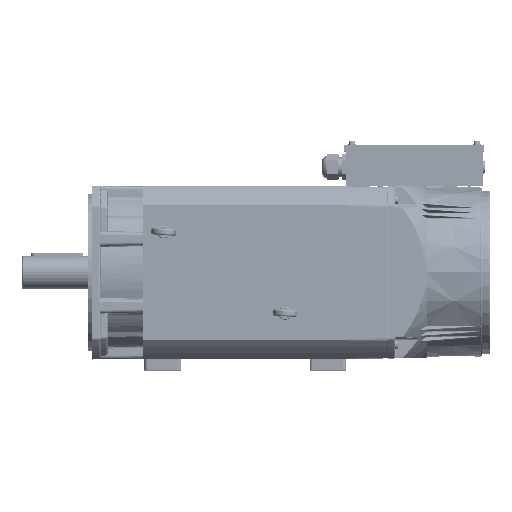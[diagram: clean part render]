
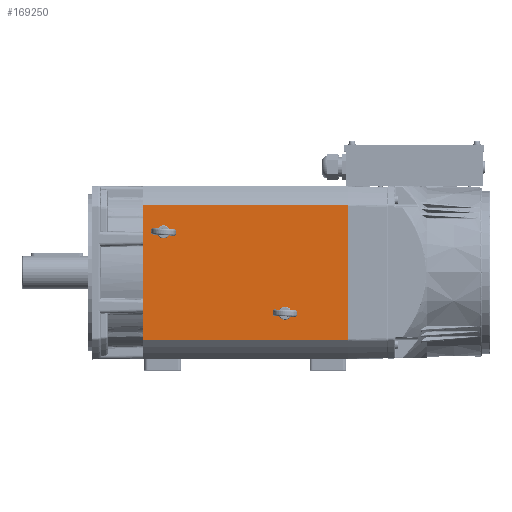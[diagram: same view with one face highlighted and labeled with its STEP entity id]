
A CAD part, top view. The second image highlights one B-rep face of the part: STEP entity #169250.
In plain terms, the highlighted planar face has unit normal (0, 0, 1) as drawn and (0, -1, 0) by its records, which use the part's own axes.
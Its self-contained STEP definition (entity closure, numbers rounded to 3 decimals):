
#3067 = VERTEX_POINT ( 'NONE', #175509 ) ;
#4050 = VECTOR ( 'NONE', #250501, 1000. ) ;
#14731 = FACE_BOUND ( 'NONE', #190184, .T. ) ;
#15941 = VECTOR ( 'NONE', #129144, 1000. ) ;
#20791 = CIRCLE ( 'NONE', #57980, 3.4 ) ;
#21069 = CARTESIAN_POINT ( 'NONE',  ( 76.959, -98.5, 0. ) ) ;
#22549 = CARTESIAN_POINT ( 'NONE',  ( -76.959, -98.5, 235. ) ) ;
#23168 = DIRECTION ( 'NONE',  ( 0., 0., -1. ) ) ;
#25025 = DIRECTION ( 'NONE',  ( 0., 0., -1. ) ) ;
#26147 = CARTESIAN_POINT ( 'NONE',  ( 76.959, -98.5, 235. ) ) ;
#29447 = VERTEX_POINT ( 'NONE', #66984 ) ;
#30276 = CARTESIAN_POINT ( 'NONE',  ( 46.5, -98.5, 163. ) ) ;
#34166 = VERTEX_POINT ( 'NONE', #36014 ) ;
#36014 = CARTESIAN_POINT ( 'NONE',  ( -46.5, -98.5, 20.6 ) ) ;
#37660 = FACE_BOUND ( 'NONE', #86155, .T. ) ;
#38157 = ORIENTED_EDGE ( 'NONE', *, *, #150289, .T. ) ;
#38982 = CIRCLE ( 'NONE', #123248, 3.4 ) ;
#39920 = DIRECTION ( 'NONE',  ( 0., 0., -1. ) ) ;
#45664 = VERTEX_POINT ( 'NONE', #22549 ) ;
#46074 = VECTOR ( 'NONE', #254713, 1000. ) ;
#46160 = CIRCLE ( 'NONE', #164134, 3.4 ) ;
#47025 = ORIENTED_EDGE ( 'NONE', *, *, #127939, .F. ) ;
#51029 = CARTESIAN_POINT ( 'NONE',  ( -76.959, -98.5, 155. ) ) ;
#52959 = DIRECTION ( 'NONE',  ( 0., 1., 0. ) ) ;
#56224 = AXIS2_PLACEMENT_3D ( 'NONE', #135653, #52959, #74168 ) ;
#57980 = AXIS2_PLACEMENT_3D ( 'NONE', #90183, #193809, #25025 ) ;
#62361 = VERTEX_POINT ( 'NONE', #177232 ) ;
#63397 = LINE ( 'NONE', #21069, #4050 ) ;
#66984 = CARTESIAN_POINT ( 'NONE',  ( 76.959, -98.5, 235. ) ) ;
#69842 = EDGE_CURVE ( 'NONE', #34166, #183227, #38982, .T. ) ;
#70797 = DIRECTION ( 'NONE',  ( 0., -1., 0. ) ) ;
#74168 = DIRECTION ( 'NONE',  ( -1., 0., 0. ) ) ;
#86155 = EDGE_LOOP ( 'NONE', ( #248958, #47025 ) ) ;
#90183 = CARTESIAN_POINT ( 'NONE',  ( -46.5, -98.5, 24. ) ) ;
#90499 = DIRECTION ( 'NONE',  ( 0., -1., 0. ) ) ;
#110620 = EDGE_CURVE ( 'NONE', #183227, #34166, #20791, .T. ) ;
#112138 = ORIENTED_EDGE ( 'NONE', *, *, #211253, .T. ) ;
#113337 = ORIENTED_EDGE ( 'NONE', *, *, #69842, .F. ) ;
#113656 = PLANE ( 'NONE',  #56224 ) ;
#116733 = CIRCLE ( 'NONE', #143851, 3.4 ) ;
#123248 = AXIS2_PLACEMENT_3D ( 'NONE', #227192, #165680, #39920 ) ;
#127939 = EDGE_CURVE ( 'NONE', #243675, #198637, #46160, .T. ) ;
#129144 = DIRECTION ( 'NONE',  ( 0., 0., -1. ) ) ;
#135653 = CARTESIAN_POINT ( 'NONE',  ( 76.959, -98.5, 155. ) ) ;
#143851 = AXIS2_PLACEMENT_3D ( 'NONE', #30276, #70797, #178874 ) ;
#150289 = EDGE_CURVE ( 'NONE', #3067, #62361, #63397, .T. ) ;
#151939 = CARTESIAN_POINT ( 'NONE',  ( 46.5, -98.5, 163. ) ) ;
#156307 = EDGE_CURVE ( 'NONE', #45664, #29447, #249687, .T. ) ;
#156976 = CARTESIAN_POINT ( 'NONE',  ( -46.5, -98.5, 27.4 ) ) ;
#161538 = EDGE_CURVE ( 'NONE', #29447, #62361, #195754, .T. ) ;
#164134 = AXIS2_PLACEMENT_3D ( 'NONE', #151939, #90499, #235445 ) ;
#164687 = CARTESIAN_POINT ( 'NONE',  ( 46.5, -98.5, 159.6 ) ) ;
#165680 = DIRECTION ( 'NONE',  ( 0., -1., 0. ) ) ;
#168118 = CARTESIAN_POINT ( 'NONE',  ( 76.959, -98.5, 155. ) ) ;
#168994 = EDGE_CURVE ( 'NONE', #198637, #243675, #116733, .T. ) ;
#169250 = ADVANCED_FACE ( 'NONE', ( #14731, #37660, #175657 ), #113656, .F. ) ;
#169654 = VECTOR ( 'NONE', #23168, 1000. ) ;
#172183 = EDGE_LOOP ( 'NONE', ( #38157, #250611, #204796, #112138 ) ) ;
#175509 = CARTESIAN_POINT ( 'NONE',  ( -76.959, -98.5, 0. ) ) ;
#175657 = FACE_OUTER_BOUND ( 'NONE', #172183, .T. ) ;
#177216 = CARTESIAN_POINT ( 'NONE',  ( 46.5, -98.5, 166.4 ) ) ;
#177232 = CARTESIAN_POINT ( 'NONE',  ( 76.959, -98.5, 0. ) ) ;
#178874 = DIRECTION ( 'NONE',  ( 0., 0., -1. ) ) ;
#183227 = VERTEX_POINT ( 'NONE', #156976 ) ;
#190184 = EDGE_LOOP ( 'NONE', ( #113337, #208784 ) ) ;
#193809 = DIRECTION ( 'NONE',  ( 0., -1., 0. ) ) ;
#195754 = LINE ( 'NONE', #168118, #169654 ) ;
#198637 = VERTEX_POINT ( 'NONE', #164687 ) ;
#204796 = ORIENTED_EDGE ( 'NONE', *, *, #156307, .F. ) ;
#208784 = ORIENTED_EDGE ( 'NONE', *, *, #110620, .F. ) ;
#211253 = EDGE_CURVE ( 'NONE', #45664, #3067, #212926, .T. ) ;
#212926 = LINE ( 'NONE', #51029, #15941 ) ;
#227192 = CARTESIAN_POINT ( 'NONE',  ( -46.5, -98.5, 24. ) ) ;
#235445 = DIRECTION ( 'NONE',  ( 0., 0., -1. ) ) ;
#243675 = VERTEX_POINT ( 'NONE', #177216 ) ;
#248958 = ORIENTED_EDGE ( 'NONE', *, *, #168994, .F. ) ;
#249687 = LINE ( 'NONE', #26147, #46074 ) ;
#250501 = DIRECTION ( 'NONE',  ( 1., 0., 0. ) ) ;
#250611 = ORIENTED_EDGE ( 'NONE', *, *, #161538, .F. ) ;
#254713 = DIRECTION ( 'NONE',  ( 1., 0., 0. ) ) ;
